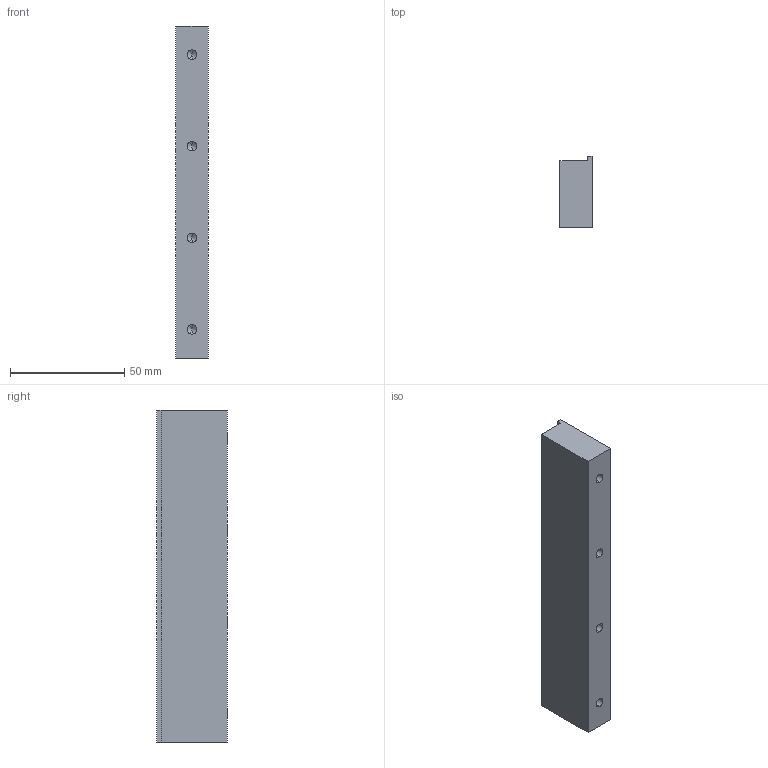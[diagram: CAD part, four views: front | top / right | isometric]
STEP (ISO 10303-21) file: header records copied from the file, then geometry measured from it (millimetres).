
FILE_DESCRIPTION (( 'STEP AP214' ), '1' );
FILE_NAME ('GZ21.07_V1导轨垫块.STEP', '2021-02-26T01:24:30', ( '微软中国' ), ( 'Microsoft' ), 'SwSTEP 2.0', 'SolidWorks 2017', '' );
FILE_SCHEMA (( 'AUTOMOTIVE_DESIGN' ));
Length unit declared in the file: millimetre
Products named in the file (1): GZ21.07_V1絳寢菜輸
Bounding box: 14 x 31 x 145 mm (x, y, z)
Volume: 58426.9 mm3; surface area: 15005 mm2
Topology: 1 solids, 1 shells, 48 faces, 118 edges, 62 vertices
Faces by surface type: cylinder 20, cone 20, plane 8
Entity records: 1516 total; most frequent: DIRECTION 236, CARTESIAN_POINT 209, ORIENTED_EDGE 196, EDGE_CURVE 98, AXIS2_PLACEMENT_3D 89, VERTEX_POINT 62, EDGE_LOOP 58, LINE 58
